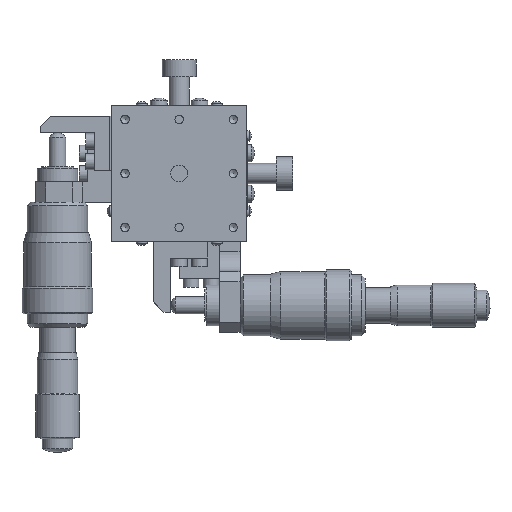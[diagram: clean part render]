
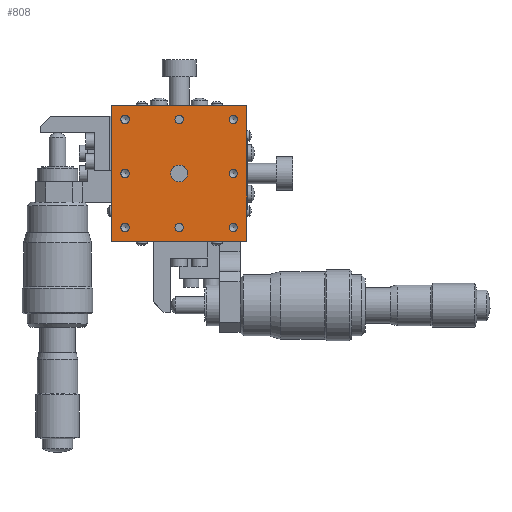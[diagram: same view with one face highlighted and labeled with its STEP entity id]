
A CAD part, top view. The second image highlights one B-rep face of the part: STEP entity #808.
In plain terms, the highlighted planar face has unit normal (0, 0, 1).
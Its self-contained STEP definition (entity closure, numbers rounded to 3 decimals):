
#808 = ADVANCED_FACE( '', ( #1781, #1782, #1783, #1784, #1785, #1786, #1787, #1788, #1789, #1790 ), #1791, .T. );
#1781 = FACE_BOUND( '', #2874, .T. );
#1782 = FACE_BOUND( '', #2875, .T. );
#1783 = FACE_BOUND( '', #2876, .T. );
#1784 = FACE_BOUND( '', #2877, .T. );
#1785 = FACE_BOUND( '', #2878, .T. );
#1786 = FACE_BOUND( '', #2879, .T. );
#1787 = FACE_BOUND( '', #2880, .T. );
#1788 = FACE_BOUND( '', #2881, .T. );
#1789 = FACE_OUTER_BOUND( '', #2882, .T. );
#1790 = FACE_BOUND( '', #2883, .T. );
#1791 = PLANE( '', #2884 );
#2874 = EDGE_LOOP( '', ( #4919 ) );
#2875 = EDGE_LOOP( '', ( #4920 ) );
#2876 = EDGE_LOOP( '', ( #4921 ) );
#2877 = EDGE_LOOP( '', ( #4922 ) );
#2878 = EDGE_LOOP( '', ( #4923 ) );
#2879 = EDGE_LOOP( '', ( #4924 ) );
#2880 = EDGE_LOOP( '', ( #4925 ) );
#2881 = EDGE_LOOP( '', ( #4926 ) );
#2882 = EDGE_LOOP( '', ( #4927, #4928, #4929, #4930 ) );
#2883 = EDGE_LOOP( '', ( #4931 ) );
#2884 = AXIS2_PLACEMENT_3D( '', #4932, #4933, #4934 );
#4919 = ORIENTED_EDGE( '', *, *, #6237, .T. );
#4920 = ORIENTED_EDGE( '', *, *, #6245, .T. );
#4921 = ORIENTED_EDGE( '', *, *, #5893, .T. );
#4922 = ORIENTED_EDGE( '', *, *, #6300, .T. );
#4923 = ORIENTED_EDGE( '', *, *, #6309, .T. );
#4924 = ORIENTED_EDGE( '', *, *, #6065, .T. );
#4925 = ORIENTED_EDGE( '', *, *, #6132, .T. );
#4926 = ORIENTED_EDGE( '', *, *, #5590, .T. );
#4927 = ORIENTED_EDGE( '', *, *, #6085, .T. );
#4928 = ORIENTED_EDGE( '', *, *, #5688, .T. );
#4929 = ORIENTED_EDGE( '', *, *, #6271, .T. );
#4930 = ORIENTED_EDGE( '', *, *, #5540, .T. );
#4931 = ORIENTED_EDGE( '', *, *, #6069, .T. );
#4932 = CARTESIAN_POINT( '', ( 0., 0., 22. ) );
#4933 = DIRECTION( '', ( 0., 0., 1. ) );
#4934 = DIRECTION( '', ( 1., 0., 0. ) );
#5540 = EDGE_CURVE( '', #6444, #6442, #6445, .T. );
#5590 = EDGE_CURVE( '', #6530, #6530, #6531, .T. );
#5688 = EDGE_CURVE( '', #6700, #6698, #6701, .T. );
#5893 = EDGE_CURVE( '', #7045, #7045, #7046, .T. );
#6065 = EDGE_CURVE( '', #7300, #7300, #7301, .T. );
#6069 = EDGE_CURVE( '', #7306, #7306, #7307, .T. );
#6085 = EDGE_CURVE( '', #6442, #6700, #7330, .T. );
#6132 = EDGE_CURVE( '', #7396, #7396, #7397, .T. );
#6237 = EDGE_CURVE( '', #7531, #7531, #7532, .T. );
#6245 = EDGE_CURVE( '', #7543, #7543, #7544, .T. );
#6271 = EDGE_CURVE( '', #6698, #6444, #7576, .T. );
#6300 = EDGE_CURVE( '', #7608, #7608, #7609, .T. );
#6309 = EDGE_CURVE( '', #7619, #7619, #7620, .T. );
#6442 = VERTEX_POINT( '', #7768 );
#6444 = VERTEX_POINT( '', #7771 );
#6445 = LINE( '', #7772, #7773 );
#6530 = VERTEX_POINT( '', #7877 );
#6531 = CIRCLE( '', #7878, 1.25 );
#6698 = VERTEX_POINT( '', #8093 );
#6700 = VERTEX_POINT( '', #8096 );
#6701 = LINE( '', #8097, #8098 );
#7045 = VERTEX_POINT( '', #8556 );
#7046 = CIRCLE( '', #8557, 1.25 );
#7300 = VERTEX_POINT( '', #8893 );
#7301 = CIRCLE( '', #8894, 1.25 );
#7306 = VERTEX_POINT( '', #8899 );
#7307 = CIRCLE( '', #8900, 2.5 );
#7330 = LINE( '', #8930, #8931 );
#7396 = VERTEX_POINT( '', #9008 );
#7397 = CIRCLE( '', #9009, 1.25 );
#7531 = VERTEX_POINT( '', #9182 );
#7532 = CIRCLE( '', #9183, 1.25 );
#7543 = VERTEX_POINT( '', #9194 );
#7544 = CIRCLE( '', #9195, 1.25 );
#7576 = LINE( '', #9239, #9240 );
#7608 = VERTEX_POINT( '', #9279 );
#7609 = CIRCLE( '', #9280, 1.25 );
#7619 = VERTEX_POINT( '', #9292 );
#7620 = CIRCLE( '', #9293, 1.25 );
#7768 = CARTESIAN_POINT( '', ( 20., -20., 22. ) );
#7771 = CARTESIAN_POINT( '', ( -20., -20., 22. ) );
#7772 = CARTESIAN_POINT( '', ( 0., -20., 22. ) );
#7773 = VECTOR( '', #9439, 1000. );
#7877 = CARTESIAN_POINT( '', ( -16., -17.25, 22. ) );
#7878 = AXIS2_PLACEMENT_3D( '', #9513, #9514, #9515 );
#8093 = CARTESIAN_POINT( '', ( -20., 20., 22. ) );
#8096 = CARTESIAN_POINT( '', ( 20., 20., 22. ) );
#8097 = CARTESIAN_POINT( '', ( 0., 20., 22. ) );
#8098 = VECTOR( '', #9643, 1000. );
#8556 = CARTESIAN_POINT( '', ( 0., 14.75, 22. ) );
#8557 = AXIS2_PLACEMENT_3D( '', #9905, #9906, #9907 );
#8893 = CARTESIAN_POINT( '', ( 16., -17.25, 22. ) );
#8894 = AXIS2_PLACEMENT_3D( '', #10128, #10129, #10130 );
#8899 = CARTESIAN_POINT( '', ( -2.5, 0., 22. ) );
#8900 = AXIS2_PLACEMENT_3D( '', #10134, #10135, #10136 );
#8930 = CARTESIAN_POINT( '', ( 20., 0., 22. ) );
#8931 = VECTOR( '', #10153, 1000. );
#9008 = CARTESIAN_POINT( '', ( 0., -17.25, 22. ) );
#9009 = AXIS2_PLACEMENT_3D( '', #10213, #10214, #10215 );
#9182 = CARTESIAN_POINT( '', ( -16., -1.25, 22. ) );
#9183 = AXIS2_PLACEMENT_3D( '', #10318, #10319, #10320 );
#9194 = CARTESIAN_POINT( '', ( -16., 14.75, 22. ) );
#9195 = AXIS2_PLACEMENT_3D( '', #10330, #10331, #10332 );
#9239 = CARTESIAN_POINT( '', ( -20., 0., 22. ) );
#9240 = VECTOR( '', #10357, 1000. );
#9279 = CARTESIAN_POINT( '', ( 16., 14.75, 22. ) );
#9280 = AXIS2_PLACEMENT_3D( '', #10374, #10375, #10376 );
#9292 = CARTESIAN_POINT( '', ( 16., -1.25, 22. ) );
#9293 = AXIS2_PLACEMENT_3D( '', #10379, #10380, #10381 );
#9439 = DIRECTION( '', ( 1., 0., 0. ) );
#9513 = CARTESIAN_POINT( '', ( -16., -16., 22. ) );
#9514 = DIRECTION( '', ( 0., 0., -1. ) );
#9515 = DIRECTION( '', ( 0., -1., 0. ) );
#9643 = DIRECTION( '', ( -1., 0., 0. ) );
#9905 = CARTESIAN_POINT( '', ( 0., 16., 22. ) );
#9906 = DIRECTION( '', ( 0., 0., -1. ) );
#9907 = DIRECTION( '', ( 0., -1., 0. ) );
#10128 = CARTESIAN_POINT( '', ( 16., -16., 22. ) );
#10129 = DIRECTION( '', ( 0., 0., -1. ) );
#10130 = DIRECTION( '', ( 0., -1., 0. ) );
#10134 = CARTESIAN_POINT( '', ( 0., 0., 22. ) );
#10135 = DIRECTION( '', ( 0., 0., -1. ) );
#10136 = DIRECTION( '', ( -1., 0., 0. ) );
#10153 = DIRECTION( '', ( 0., 1., 0. ) );
#10213 = CARTESIAN_POINT( '', ( 0., -16., 22. ) );
#10214 = DIRECTION( '', ( 0., 0., -1. ) );
#10215 = DIRECTION( '', ( 0., -1., 0. ) );
#10318 = CARTESIAN_POINT( '', ( -16., 0., 22. ) );
#10319 = DIRECTION( '', ( 0., 0., -1. ) );
#10320 = DIRECTION( '', ( 0., -1., 0. ) );
#10330 = CARTESIAN_POINT( '', ( -16., 16., 22. ) );
#10331 = DIRECTION( '', ( 0., 0., -1. ) );
#10332 = DIRECTION( '', ( 0., -1., 0. ) );
#10357 = DIRECTION( '', ( 0., -1., 0. ) );
#10374 = CARTESIAN_POINT( '', ( 16., 16., 22. ) );
#10375 = DIRECTION( '', ( 0., 0., -1. ) );
#10376 = DIRECTION( '', ( 0., -1., 0. ) );
#10379 = CARTESIAN_POINT( '', ( 16., 0., 22. ) );
#10380 = DIRECTION( '', ( 0., 0., -1. ) );
#10381 = DIRECTION( '', ( 0., -1., 0. ) );
